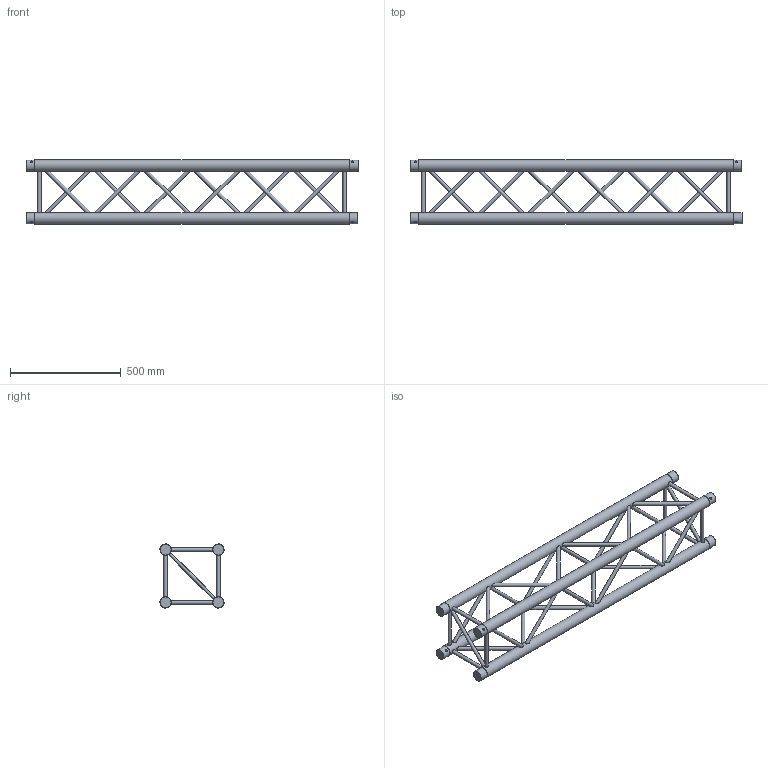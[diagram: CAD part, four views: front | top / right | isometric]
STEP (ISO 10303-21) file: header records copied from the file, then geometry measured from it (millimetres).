
FILE_DESCRIPTION(/* description */ (''),/* implementation_level */ '2;1');
FILE_NAME(/* name */ 'M:\Symbolen\STP\30-er truss\111080138.stp',/* time_stamp */ '2015-01-29T16:25:09+01:00',/* author */ ('Stephan'),/* organization */ (''),/* preprocessor_version */ 'ST-DEVELOPER v15.6',/* originating_system */ 'Autodesk Inventor 2015',/* authorisation */ '');
FILE_SCHEMA (('AUTOMOTIVE_DESIGN { 1 0 10303 214 3 1 1 }'));
Length unit declared in the file: millimetre
Products named in the file (1): 160023706
Bounding box: 1500 x 289.98 x 289.98 mm (x, y, z)
Volume: 13823776.1 mm3; surface area: 1454039.9 mm2
Topology: 38 solids, 38 shells, 224 faces, 380 edges, 228 vertices
Faces by surface type: plane 152, cylinder 64, cone 8
Full cylindrical faces by diameter (mm): 10 x8, 12 x2, 16 x34, 49.5 x8, 51 x4
Entity records: 6021 total; most frequent: CARTESIAN_POINT 1385, DIRECTION 866, ORIENTED_EDGE 736, AXIS2_PLACEMENT_3D 393, EDGE_LOOP 376, EDGE_CURVE 304, VERTEX_POINT 224, STYLED_ITEM 217
